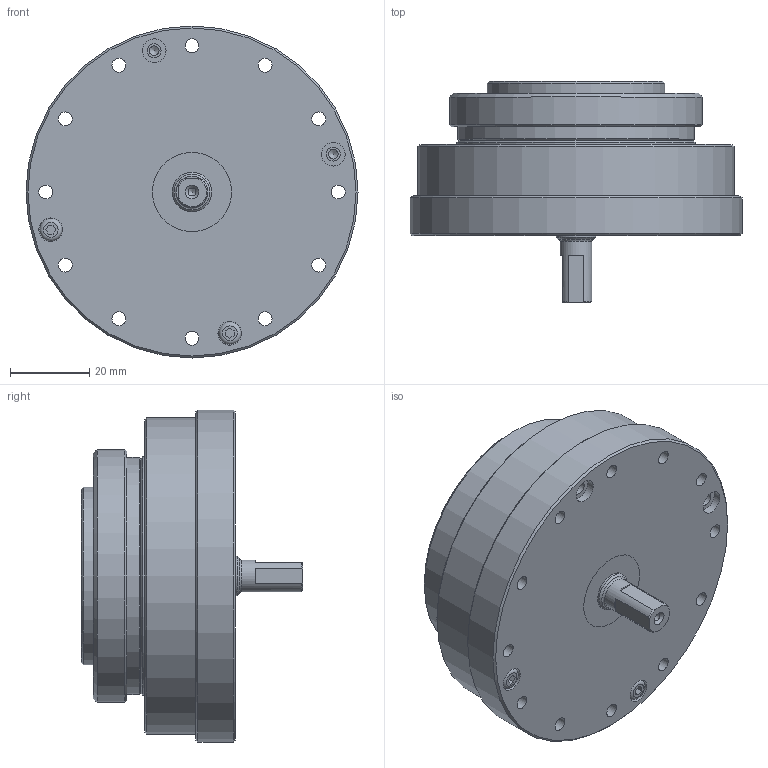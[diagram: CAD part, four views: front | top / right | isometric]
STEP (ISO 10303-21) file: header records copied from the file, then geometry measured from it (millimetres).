
FILE_DESCRIPTION(/* description */ (''),/* implementation_level */ '2;1');
FILE_NAME(/* name */ 'LHT-17-U-4',/* time_stamp */ '2017-09-16T15:38:28+08:00',/* author */ (''),/* organization */ (''),/* preprocessor_version */ 'ST-DEVELOPER v9',/* originating_system */ 'UGS - NX 4.0',/* authorisation */ '');
FILE_SCHEMA (('AUTOMOTIVE_DESIGN { 1 0 10303 214 1 1 1 1 }'));
Length unit declared in the file: millimetre
Products named in the file (1): Admi85A9d2pv
Bounding box: 84 x 56 x 84 mm (x, y, z)
Volume: 139685.3 mm3; surface area: 92313.6 mm2
Topology: 66 solids, 66 shells, 664 faces, 1557 edges, 1032 vertices
Faces by surface type: cylinder 298, plane 227, cone 71, torus 47, sphere 21
Full cylindrical faces by diameter (mm): 1.675 x6, 2 x2, 2.1 x1, 2.459 x28, 2.5 x12, 2.7 x1, 3 x5, 3.5 x84, 4 x20, 5 x7, 5.5 x3, 5.7 x2, 6 x8, 7 x2, 8 x1, 9.6 x4, 10 x4, 12 x1, 13.5 x1, 13.6 x1, 14.4 x1, 15 x1, 16.5 x2, 17 x3, 18.5 x1, 20 x2, 22 x3, 23 x2, 25.5 x2, 26.5 x2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
Entity records: 16923 total; most frequent: DIRECTION 3102, CARTESIAN_POINT 2600, ORIENTED_EDGE 1998, AXIS2_PLACEMENT_3D 1443, EDGE_LOOP 1306, FACE_BOUND 1011, EDGE_CURVE 999, VERTEX_POINT 909
